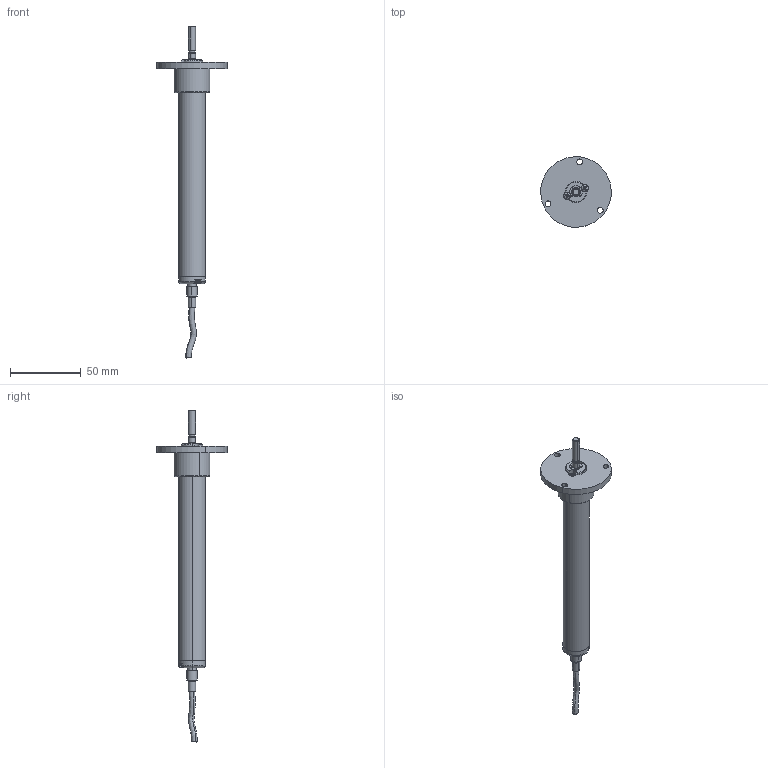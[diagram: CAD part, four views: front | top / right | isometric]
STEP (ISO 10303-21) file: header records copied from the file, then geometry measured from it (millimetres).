
FILE_DESCRIPTION (( 'STEP AP203' ), '1' );
FILE_NAME ('PZ34-F-100.STEP', '2016-05-16T16:59:16', ( '' ), ( '' ), 'SwSTEP 2.0', 'SolidWorks 2015', '' );
FILE_SCHEMA (( 'CONFIG_CONTROL_DESIGN' ));
Length unit declared in the file: millimetre
Products named in the file (10): MIM815X_ISO 7045 - M2.5 x 8 - Z --- 8S; MIM001X_Lock washer DIN 6799 - 3.2; TES102X; TES107X; PZ34-F-100; CUS263X; FLA091X; ALB138X; Termor-PME-V2X; PMEV2 cavoX
Assembly tree (12 placements, depth 2):
  PZ34-F-100
    TES107X
    CUS263X
    FLA091X
    ALB138X
    Termor-PME-V2X
    PMEV2 cavoX
    MIM815X_ISO 7045 - M2.5 x 8 - Z --- 8S  x4
    MIM001X_Lock washer DIN 6799 - 3.2
    TES102X
Bounding box: 49.93 x 49.93 x 235.2 mm (x, y, z)
Volume: 58571.1 mm3; surface area: 25631.1 mm2
Topology: 12 solids, 12 shells, 910 faces, 2355 edges, 1475 vertices
Faces by surface type: cone 448, cylinder 305, plane 124, torus 23, sphere 8, bspline 2
Entity records: 12573 total; most frequent: CARTESIAN_POINT 2508, DIRECTION 2109, ORIENTED_EDGE 1766, EDGE_CURVE 883, AXIS2_PLACEMENT_3D 879, VERTEX_POINT 560, CIRCLE 514, EDGE_LOOP 393
